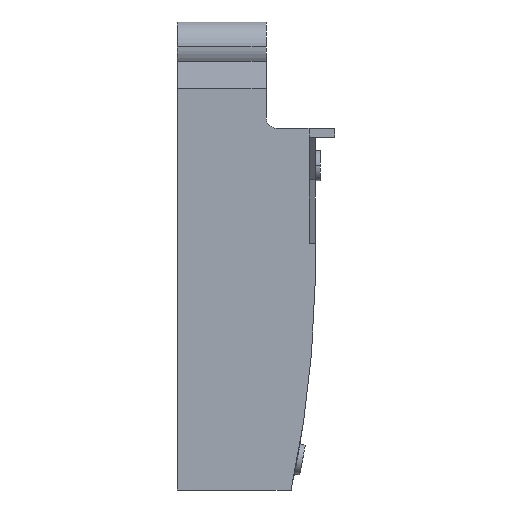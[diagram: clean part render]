
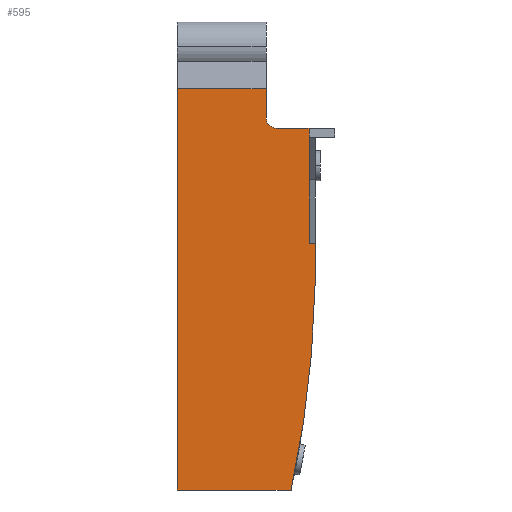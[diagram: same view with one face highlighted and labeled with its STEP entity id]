
A CAD part, front view. The second image highlights one B-rep face of the part: STEP entity #595.
In plain terms, the highlighted planar face has unit normal (0, -1, 0).
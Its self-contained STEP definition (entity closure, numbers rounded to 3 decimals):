
#31 = DIRECTION ( 'NONE',  ( 0., 0., 1. ) ) ;
#32 = CARTESIAN_POINT ( 'NONE',  ( 25., -7.05, 0. ) ) ;
#33 = DIRECTION ( 'NONE',  ( 0., 0., -1. ) ) ;
#34 = CARTESIAN_POINT ( 'NONE',  ( 37.1, -7.05, 0. ) ) ;
#50 = DIRECTION ( 'NONE',  ( 0., 0., -1. ) ) ;
#53 = CARTESIAN_POINT ( 'NONE',  ( 0., -7.05, 0. ) ) ;
#69 = DIRECTION ( 'NONE',  ( -1., 0., 0. ) ) ;
#71 = DIRECTION ( 'NONE',  ( 0., 1., 0. ) ) ;
#76 = CARTESIAN_POINT ( 'NONE',  ( 28., -7.05, 105. ) ) ;
#78 = DIRECTION ( 'NONE',  ( -1., 0., 0. ) ) ;
#80 = DIRECTION ( 'NONE',  ( -1., 0., 0. ) ) ;
#81 = DIRECTION ( 'NONE',  ( 0., -1., 0. ) ) ;
#83 = CARTESIAN_POINT ( 'NONE',  ( -261.142, -7.05, 63.577 ) ) ;
#85 = DIRECTION ( 'NONE',  ( 0., 0., -1. ) ) ;
#122 = FACE_OUTER_BOUND ( 'NONE', #990, .T. ) ;
#184 = AXIS2_PLACEMENT_3D ( 'NONE', #76, #71, #69 ) ;
#241 = ORIENTED_EDGE ( 'NONE', *, *, #914, .T. ) ;
#242 = ORIENTED_EDGE ( 'NONE', *, *, #944, .T. ) ;
#243 = ORIENTED_EDGE ( 'NONE', *, *, #920, .T. ) ;
#285 = CARTESIAN_POINT ( 'NONE',  ( 38.8, -7.05, 69.5 ) ) ;
#286 = DIRECTION ( 'NONE',  ( 1., 0., 0. ) ) ;
#296 = DIRECTION ( 'NONE',  ( -1., 0., 0. ) ) ;
#301 = CARTESIAN_POINT ( 'NONE',  ( 38.8, -7.05, 102. ) ) ;
#338 = DIRECTION ( 'NONE',  ( -1., 0., 0. ) ) ;
#339 = DIRECTION ( 'NONE',  ( 0., 1., 0. ) ) ;
#347 = VERTEX_POINT ( 'NONE', #423 ) ;
#348 = PLANE ( 'NONE',  #607 ) ;
#349 = VERTEX_POINT ( 'NONE', #426 ) ;
#350 = CARTESIAN_POINT ( 'NONE',  ( 38.8, -7.05, 0. ) ) ;
#354 = VERTEX_POINT ( 'NONE', #420 ) ;
#355 = VERTEX_POINT ( 'NONE', #419 ) ;
#358 = VERTEX_POINT ( 'NONE', #417 ) ;
#363 = VERTEX_POINT ( 'NONE', #412 ) ;
#369 = VERTEX_POINT ( 'NONE', #408 ) ;
#379 = VERTEX_POINT ( 'NONE', #398 ) ;
#380 = CARTESIAN_POINT ( 'NONE',  ( 25., -7.05, 113.2 ) ) ;
#390 = CARTESIAN_POINT ( 'NONE',  ( 0., -7.05, 113.2 ) ) ;
#398 = CARTESIAN_POINT ( 'NONE',  ( 38.8, -7.05, 57.653 ) ) ;
#408 = CARTESIAN_POINT ( 'NONE',  ( 0., -7.05, 0. ) ) ;
#412 = CARTESIAN_POINT ( 'NONE',  ( 37.1, -7.05, 69.5 ) ) ;
#414 = VERTEX_POINT ( 'NONE', #390 ) ;
#417 = CARTESIAN_POINT ( 'NONE',  ( 28., -7.05, 102. ) ) ;
#419 = CARTESIAN_POINT ( 'NONE',  ( 38.8, -7.05, 69.5 ) ) ;
#420 = CARTESIAN_POINT ( 'NONE',  ( 25., -7.05, 105. ) ) ;
#423 = CARTESIAN_POINT ( 'NONE',  ( 37.1, -7.05, 102. ) ) ;
#426 = CARTESIAN_POINT ( 'NONE',  ( 32.044, -7.05, 0. ) ) ;
#451 = VERTEX_POINT ( 'NONE', #380 ) ;
#582 = LINE ( 'NONE', #285, #583 ) ;
#583 = VECTOR ( 'NONE', #286, 1000. ) ;
#587 = LINE ( 'NONE', #637, #588 ) ;
#588 = VECTOR ( 'NONE', #765, 1000. ) ;
#595 = ADVANCED_FACE ( 'NONE', ( #122 ), #348, .F. ) ;
#603 = AXIS2_PLACEMENT_3D ( 'NONE', #83, #81, #80 ) ;
#607 = AXIS2_PLACEMENT_3D ( 'NONE', #350, #339, #338 ) ;
#620 = ORIENTED_EDGE ( 'NONE', *, *, #907, .F. ) ;
#622 = ORIENTED_EDGE ( 'NONE', *, *, #903, .F. ) ;
#624 = ORIENTED_EDGE ( 'NONE', *, *, #906, .T. ) ;
#627 = ORIENTED_EDGE ( 'NONE', *, *, #940, .F. ) ;
#629 = ORIENTED_EDGE ( 'NONE', *, *, #909, .T. ) ;
#630 = ORIENTED_EDGE ( 'NONE', *, *, #937, .T. ) ;
#631 = ORIENTED_EDGE ( 'NONE', *, *, #919, .F. ) ;
#637 = CARTESIAN_POINT ( 'NONE',  ( 38.8, -7.05, 113.2 ) ) ;
#699 = LINE ( 'NONE', #809, #709 ) ;
#706 = VECTOR ( 'NONE', #78, 1000. ) ;
#709 = VECTOR ( 'NONE', #85, 1000. ) ;
#714 = LINE ( 'NONE', #806, #706 ) ;
#715 = CIRCLE ( 'NONE', #603, 300. ) ;
#717 = VECTOR ( 'NONE', #50, 1000. ) ;
#718 = LINE ( 'NONE', #53, #717 ) ;
#719 = CIRCLE ( 'NONE', #184, 3. ) ;
#723 = LINE ( 'NONE', #34, #726 ) ;
#726 = VECTOR ( 'NONE', #33, 1000. ) ;
#730 = LINE ( 'NONE', #32, #731 ) ;
#731 = VECTOR ( 'NONE', #31, 1000. ) ;
#755 = LINE ( 'NONE', #301, #756 ) ;
#756 = VECTOR ( 'NONE', #296, 1000. ) ;
#765 = DIRECTION ( 'NONE',  ( -1., 0., 0. ) ) ;
#806 = CARTESIAN_POINT ( 'NONE',  ( 38.8, -7.05, 0. ) ) ;
#809 = CARTESIAN_POINT ( 'NONE',  ( 38.8, -7.05, 0. ) ) ;
#903 = EDGE_CURVE ( 'NONE', #355, #379, #699, .T. ) ;
#906 = EDGE_CURVE ( 'NONE', #349, #379, #715, .T. ) ;
#907 = EDGE_CURVE ( 'NONE', #349, #369, #714, .T. ) ;
#909 = EDGE_CURVE ( 'NONE', #358, #354, #719, .T. ) ;
#914 = EDGE_CURVE ( 'NONE', #414, #369, #718, .T. ) ;
#919 = EDGE_CURVE ( 'NONE', #347, #363, #723, .T. ) ;
#920 = EDGE_CURVE ( 'NONE', #354, #451, #730, .T. ) ;
#937 = EDGE_CURVE ( 'NONE', #347, #358, #755, .T. ) ;
#940 = EDGE_CURVE ( 'NONE', #363, #355, #582, .T. ) ;
#944 = EDGE_CURVE ( 'NONE', #451, #414, #587, .T. ) ;
#990 = EDGE_LOOP ( 'NONE', ( #620, #624, #622, #627, #631, #630, #629, #243, #242, #241 ) ) ;
